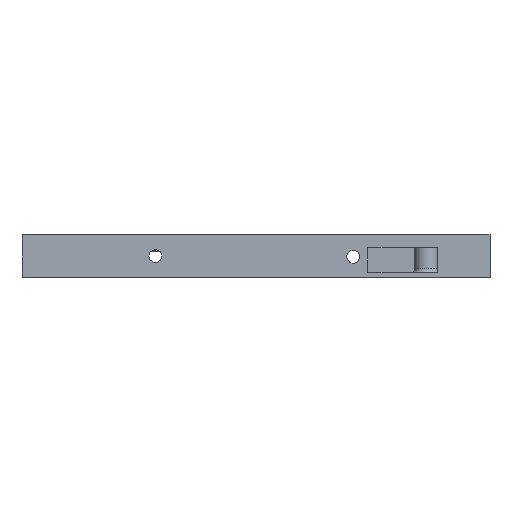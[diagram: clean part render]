
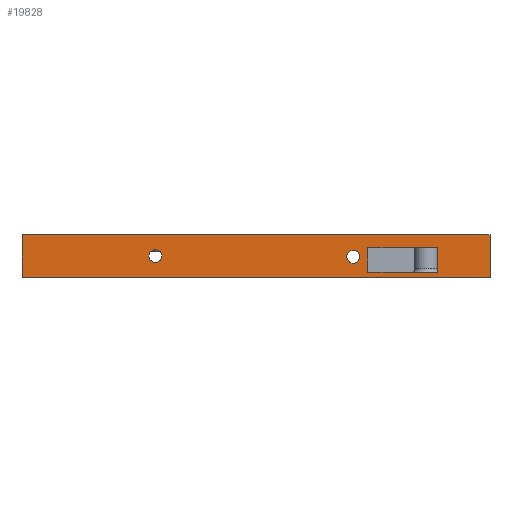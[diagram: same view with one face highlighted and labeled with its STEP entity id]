
A CAD part, left-side view. The second image highlights one B-rep face of the part: STEP entity #19828.
In plain terms, the highlighted planar face has unit normal (-1, 0, 0).
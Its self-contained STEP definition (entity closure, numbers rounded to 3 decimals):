
#147=FACE_BOUND('',#3490,.T.);
#148=FACE_BOUND('',#3491,.T.);
#149=FACE_BOUND('',#3492,.T.);
#885=CIRCLE('',#21346,3.);
#887=CIRCLE('',#21350,3.);
#2326=FACE_OUTER_BOUND('',#3489,.T.);
#3489=EDGE_LOOP('',(#17981,#17982,#17983,#17984));
#3490=EDGE_LOOP('',(#17985,#17986,#17987,#17988));
#3491=EDGE_LOOP('',(#17989));
#3492=EDGE_LOOP('',(#17990));
#5618=LINE('',#40167,#7792);
#5621=LINE('',#40173,#7795);
#5624=LINE('',#40179,#7798);
#5627=LINE('',#40183,#7801);
#5638=LINE('',#40207,#7812);
#5647=LINE('',#40224,#7821);
#5670=LINE('',#40293,#7844);
#5671=LINE('',#40295,#7845);
#7792=VECTOR('',#26227,10.);
#7795=VECTOR('',#26232,10.);
#7798=VECTOR('',#26237,10.);
#7801=VECTOR('',#26242,10.);
#7812=VECTOR('',#26261,10.);
#7821=VECTOR('',#26272,10.);
#7844=VECTOR('',#26345,10.);
#7845=VECTOR('',#26348,10.);
#9649=VERTEX_POINT('',#40164);
#9650=VERTEX_POINT('',#40166);
#9652=VERTEX_POINT('',#40172);
#9654=VERTEX_POINT('',#40178);
#9662=VERTEX_POINT('',#40204);
#9663=VERTEX_POINT('',#40206);
#9670=VERTEX_POINT('',#40222);
#9686=VERTEX_POINT('',#40269);
#9688=VERTEX_POINT('',#40277);
#9691=VERTEX_POINT('',#40291);
#12396=EDGE_CURVE('',#9650,#9649,#5618,.T.);
#12399=EDGE_CURVE('',#9652,#9650,#5621,.T.);
#12402=EDGE_CURVE('',#9654,#9652,#5624,.T.);
#12405=EDGE_CURVE('',#9649,#9654,#5627,.T.);
#12416=EDGE_CURVE('',#9662,#9663,#5638,.T.);
#12425=EDGE_CURVE('',#9670,#9662,#5647,.T.);
#12449=EDGE_CURVE('',#9686,#9686,#885,.T.);
#12453=EDGE_CURVE('',#9688,#9688,#887,.T.);
#12460=EDGE_CURVE('',#9691,#9670,#5670,.T.);
#12461=EDGE_CURVE('',#9691,#9663,#5671,.T.);
#17981=ORIENTED_EDGE('',*,*,#12461,.T.);
#17982=ORIENTED_EDGE('',*,*,#12416,.F.);
#17983=ORIENTED_EDGE('',*,*,#12425,.F.);
#17984=ORIENTED_EDGE('',*,*,#12460,.F.);
#17985=ORIENTED_EDGE('',*,*,#12402,.T.);
#17986=ORIENTED_EDGE('',*,*,#12399,.T.);
#17987=ORIENTED_EDGE('',*,*,#12396,.T.);
#17988=ORIENTED_EDGE('',*,*,#12405,.T.);
#17989=ORIENTED_EDGE('',*,*,#12449,.T.);
#17990=ORIENTED_EDGE('',*,*,#12453,.T.);
#18769=PLANE('',#21355);
#19828=ADVANCED_FACE('',(#2326,#147,#148,#149),#18769,.F.);
#21346=AXIS2_PLACEMENT_3D('',#40271,#26319,#26320);
#21350=AXIS2_PLACEMENT_3D('',#40279,#26329,#26330);
#21355=AXIS2_PLACEMENT_3D('',#40294,#26346,#26347);
#26227=DIRECTION('',(0.,0.,1.));
#26232=DIRECTION('',(0.,1.,0.));
#26237=DIRECTION('',(0.,0.,-1.));
#26242=DIRECTION('',(0.,-1.,0.));
#26261=DIRECTION('',(0.,1.,0.));
#26272=DIRECTION('',(0.,0.,-1.));
#26319=DIRECTION('center_axis',(1.,0.,0.));
#26320=DIRECTION('ref_axis',(0.,1.,0.));
#26329=DIRECTION('center_axis',(1.,0.,0.));
#26330=DIRECTION('ref_axis',(0.,1.,0.));
#26345=DIRECTION('',(0.,-1.,0.));
#26346=DIRECTION('center_axis',(1.,0.,0.));
#26347=DIRECTION('ref_axis',(0.,0.,1.));
#26348=DIRECTION('',(0.,0.,-1.));
#40164=CARTESIAN_POINT('',(0.,-162.569,13.965));
#40166=CARTESIAN_POINT('',(0.,-162.569,2.256));
#40167=CARTESIAN_POINT('',(0.,-162.569,6.128));
#40172=CARTESIAN_POINT('',(0.,-195.431,2.256));
#40173=CARTESIAN_POINT('',(0.,-152.715,2.256));
#40178=CARTESIAN_POINT('',(0.,-195.431,13.965));
#40179=CARTESIAN_POINT('',(0.,-195.431,11.982));
#40183=CARTESIAN_POINT('',(0.,-136.284,13.965));
#40204=CARTESIAN_POINT('',(0.,-220.,0.));
#40206=CARTESIAN_POINT('',(0.,0.,0.));
#40207=CARTESIAN_POINT('',(0.,-110.,0.));
#40222=CARTESIAN_POINT('',(0.,-220.,20.));
#40224=CARTESIAN_POINT('',(0.,-220.,10.));
#40269=CARTESIAN_POINT('',(0.,-158.664,9.631));
#40271=CARTESIAN_POINT('Origin',(0.,-155.664,
9.631));
#40277=CARTESIAN_POINT('',(0.,-65.669,9.984));
#40279=CARTESIAN_POINT('Origin',(0.,-62.669,
9.984));
#40291=CARTESIAN_POINT('',(0.,0.,20.));
#40293=CARTESIAN_POINT('',(0.,-110.,20.));
#40294=CARTESIAN_POINT('Origin',(0.,-110.,10.));
#40295=CARTESIAN_POINT('',(0.,0.,10.));
